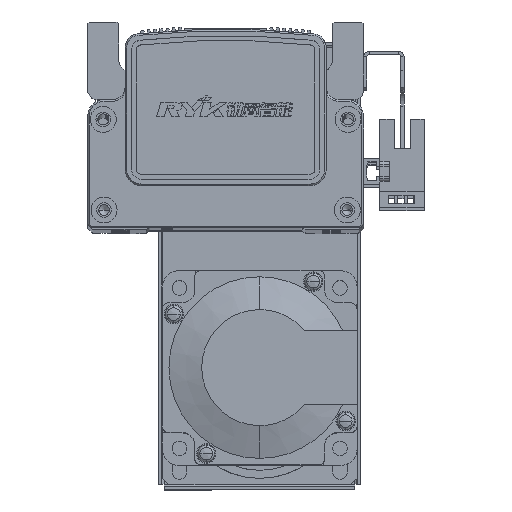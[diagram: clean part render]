
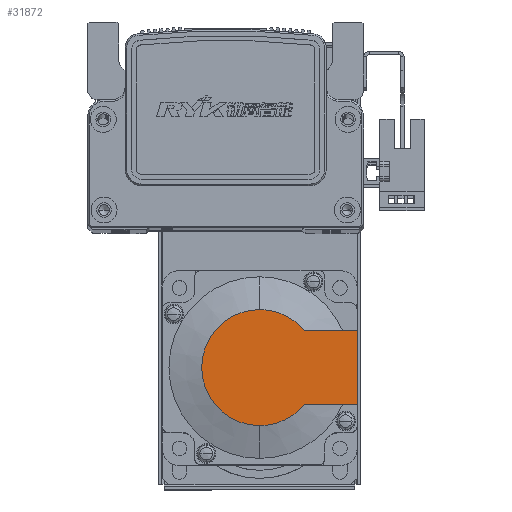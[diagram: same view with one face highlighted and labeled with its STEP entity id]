
A CAD part, top view. The second image highlights one B-rep face of the part: STEP entity #31872.
In plain terms, the highlighted planar face has unit normal (0, 0, 1) as drawn and (-1, 0, 0) by its records, which use the part's own axes.
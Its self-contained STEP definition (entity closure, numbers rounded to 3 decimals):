
#710 = AXIS2_PLACEMENT_3D ( 'NONE', #19043, #19059, #19050 ) ;
#5381 = AXIS2_PLACEMENT_3D ( 'NONE', #21603, #21640, #21609 ) ;
#5444 = AXIS2_PLACEMENT_3D ( 'NONE', #21478, #21415, #21447 ) ;
#8521 = EDGE_CURVE ( 'NONE', #35925, #33090, #35202, .T. ) ;
#9746 = EDGE_LOOP ( 'NONE', ( #50978, #55591, #55557, #52970, #55621, #52966 ) ) ;
#16393 = CIRCLE ( 'NONE', #710, 17.881 ) ;
#19043 = CARTESIAN_POINT ( 'NONE',  ( -99., 0., 0. ) ) ;
#19050 = DIRECTION ( 'NONE',  ( 0., 0., -1. ) ) ;
#19059 = DIRECTION ( 'NONE',  ( -1., 0., 0. ) ) ;
#21415 = DIRECTION ( 'NONE',  ( -1., 0., 0. ) ) ;
#21447 = DIRECTION ( 'NONE',  ( 0., 0., -1. ) ) ;
#21478 = CARTESIAN_POINT ( 'NONE',  ( -99., 0., 0. ) ) ;
#21603 = CARTESIAN_POINT ( 'NONE',  ( -99., 0., 0. ) ) ;
#21609 = DIRECTION ( 'NONE',  ( 0., 0., -1. ) ) ;
#21640 = DIRECTION ( 'NONE',  ( -1., 0., 0. ) ) ;
#21681 = CARTESIAN_POINT ( 'NONE',  ( -99., 0., 11.45 ) ) ;
#21698 = CARTESIAN_POINT ( 'NONE',  ( -99., 30., 25. ) ) ;
#21731 = DIRECTION ( 'NONE',  ( 0., 0., 1. ) ) ;
#21733 = DIRECTION ( 'NONE',  ( 0., -1., 0. ) ) ;
#24278 = FACE_OUTER_BOUND ( 'NONE', #9746, .T. ) ;
#30526 = VERTEX_POINT ( 'NONE', #45680 ) ;
#31872 = ADVANCED_FACE ( 'NONE', ( #24278 ), #44948, .T. ) ;
#33090 = VERTEX_POINT ( 'NONE', #59635 ) ;
#33636 = CARTESIAN_POINT ( 'NONE',  ( -99., -8.941, -11.45 ) ) ;
#33698 = DIRECTION ( 'NONE',  ( 0., -1., 0. ) ) ;
#35185 = VECTOR ( 'NONE', #33698, 1000. ) ;
#35202 = LINE ( 'NONE', #33636, #35185 ) ;
#35752 = VERTEX_POINT ( 'NONE', #59792 ) ;
#35780 = VERTEX_POINT ( 'NONE', #59874 ) ;
#35786 = VERTEX_POINT ( 'NONE', #59892 ) ;
#35925 = VERTEX_POINT ( 'NONE', #59984 ) ;
#44948 = PLANE ( 'NONE',  #56209 ) ;
#44952 = CARTESIAN_POINT ( 'NONE',  ( -99., -8.941, 0. ) ) ;
#44961 = DIRECTION ( 'NONE',  ( -1., 0., 0. ) ) ;
#44962 = DIRECTION ( 'NONE',  ( 0., 0., 1. ) ) ;
#45680 = CARTESIAN_POINT ( 'NONE',  ( -99., 30., 11.45 ) ) ;
#46571 = EDGE_CURVE ( 'NONE', #35752, #35786, #47952, .T. ) ;
#46603 = EDGE_CURVE ( 'NONE', #35780, #35752, #48036, .T. ) ;
#46619 = EDGE_CURVE ( 'NONE', #35925, #30526, #48042, .T. ) ;
#46623 = EDGE_CURVE ( 'NONE', #30526, #35786, #48196, .T. ) ;
#47952 = CIRCLE ( 'NONE', #5444, 17.881 ) ;
#47976 = VECTOR ( 'NONE', #21731, 1000. ) ;
#48036 = CIRCLE ( 'NONE', #5381, 17.881 ) ;
#48042 = LINE ( 'NONE', #21698, #47976 ) ;
#48101 = VECTOR ( 'NONE', #21733, 1000. ) ;
#48196 = LINE ( 'NONE', #21681, #48101 ) ;
#50978 = ORIENTED_EDGE ( 'NONE', *, *, #8521, .T. ) ;
#52966 = ORIENTED_EDGE ( 'NONE', *, *, #46619, .F. ) ;
#52970 = ORIENTED_EDGE ( 'NONE', *, *, #46571, .T. ) ;
#55557 = ORIENTED_EDGE ( 'NONE', *, *, #46603, .T. ) ;
#55591 = ORIENTED_EDGE ( 'NONE', *, *, #67501, .T. ) ;
#55621 = ORIENTED_EDGE ( 'NONE', *, *, #46623, .F. ) ;
#56209 = AXIS2_PLACEMENT_3D ( 'NONE', #44952, #44961, #44962 ) ;
#59635 = CARTESIAN_POINT ( 'NONE',  ( -99., 13.735, -11.45 ) ) ;
#59792 = CARTESIAN_POINT ( 'NONE',  ( -99., 0., 17.881 ) ) ;
#59874 = CARTESIAN_POINT ( 'NONE',  ( -99., 0., -17.881 ) ) ;
#59892 = CARTESIAN_POINT ( 'NONE',  ( -99., 13.735, 11.45 ) ) ;
#59984 = CARTESIAN_POINT ( 'NONE',  ( -99., 30., -11.45 ) ) ;
#67501 = EDGE_CURVE ( 'NONE', #33090, #35780, #16393, .T. ) ;
